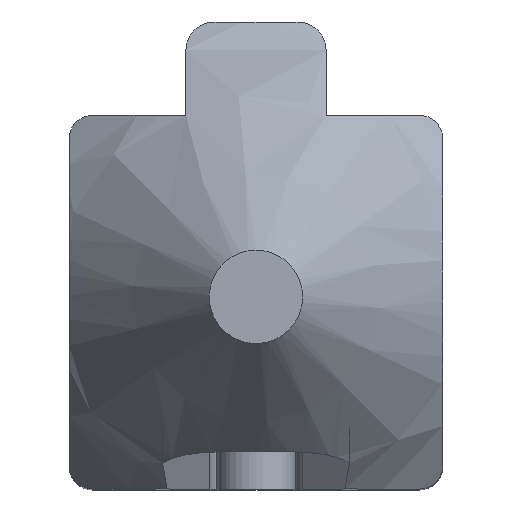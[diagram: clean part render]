
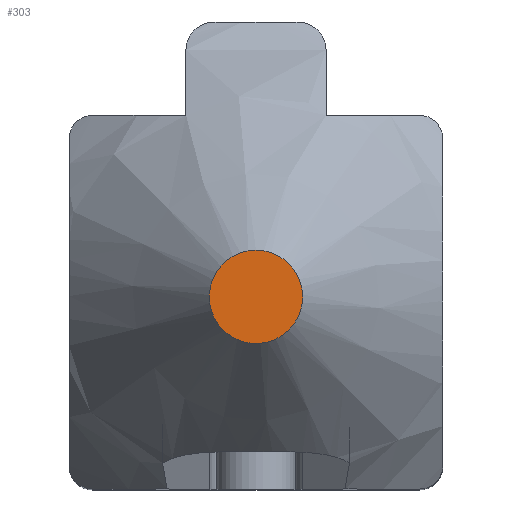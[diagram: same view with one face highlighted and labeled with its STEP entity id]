
A CAD part, top view. The second image highlights one B-rep face of the part: STEP entity #303.
In plain terms, the highlighted planar face has unit normal (0, 0, 1).
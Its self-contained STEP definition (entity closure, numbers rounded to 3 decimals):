
#25 = CARTESIAN_POINT ( 'NONE',  ( 0., 0., 200. ) ) ;
#133 = CARTESIAN_POINT ( 'NONE',  ( 1., -0.491, 200. ) ) ;
#303 = ADVANCED_FACE ( 'NONE', ( #744 ), #1227, .T. ) ;
#568 = ORIENTED_EDGE ( 'NONE', *, *, #843, .T. ) ;
#604 = CARTESIAN_POINT ( 'NONE',  ( 0., -0.491, 200. ) ) ;
#744 = FACE_OUTER_BOUND ( 'NONE', #1568, .T. ) ;
#836 = AXIS2_PLACEMENT_3D ( 'NONE', #25, #1362, #991 ) ;
#843 = EDGE_CURVE ( 'NONE', #1571, #1571, #930, .T. ) ;
#930 = CIRCLE ( 'NONE', #1337, 1. ) ;
#991 = DIRECTION ( 'NONE',  ( 1., 0., 0. ) ) ;
#1206 = DIRECTION ( 'NONE',  ( 1., 0., 0. ) ) ;
#1227 = PLANE ( 'NONE',  #836 ) ;
#1337 = AXIS2_PLACEMENT_3D ( 'NONE', #604, #1441, #1206 ) ;
#1362 = DIRECTION ( 'NONE',  ( 0., 0., 1. ) ) ;
#1441 = DIRECTION ( 'NONE',  ( 0., 0., 1. ) ) ;
#1568 = EDGE_LOOP ( 'NONE', ( #568 ) ) ;
#1571 = VERTEX_POINT ( 'NONE', #133 ) ;
